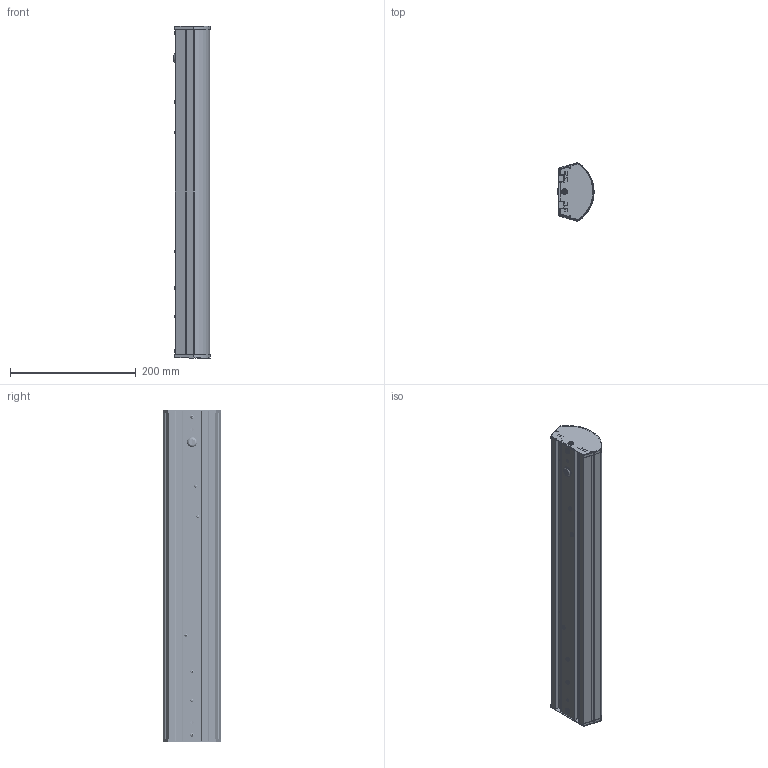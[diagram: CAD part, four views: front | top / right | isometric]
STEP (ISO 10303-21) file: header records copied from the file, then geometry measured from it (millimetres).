
FILE_DESCRIPTION (( 'STEP AP203' ), '1' );
FILE_NAME ('ALDO 530 - A3432170.STEP', '2026-01-20T08:05:43', ( '' ), ( '' ), 'SwSTEP 2.0', 'SolidWorks 2025', '' );
FILE_SCHEMA (( 'CONFIG_CONTROL_DESIGN' ));
Length unit declared in the file: millimetre
Products named in the file (14): ____________M3x7.2; ________________M3x8; __________D10; ________________M4x8; plain washers--product grade c gb_GB_FASTENER_WASHER_SMWC 4; ________ 525x82x17; hex thin nuts-grades ab-chamfered gb_GB_FASTENER_NUT_STNAB M3-S; ______ 93x56x5x1.0; ______________ 525x91x41x1.5; ________________M4x6; ______________M4x12; plain washers--product grade c gb_GB_FASTENER_WASHER_SMWC 3; ____________ 56x12x20x1.2; ALDO 530 - A3432170
Assembly tree (53 placements, depth 2):
  ALDO 530 - A3432170
    ________ 525x82x17
    ______________ 525x91x41x1.5
    ____________ 56x12x20x1.2  x2
    ______ 93x56x5x1.0  x2
    ______________M4x12  x2
    plain washers--product grade c gb_GB_FASTENER_WASHER_SMWC 4  x2
    ________________M4x6  x2
    ________________M4x8  x4
    ________________M3x8  x13
    plain washers--product grade c gb_GB_FASTENER_WASHER_SMWC 3  x13
    hex thin nuts-grades ab-chamfered gb_GB_FASTENER_NUT_STNAB M3-S  x5
    __________D10
    ____________M3x7.2  x5
Bounding box: 57.53 x 93 x 527 mm (x, y, z)
Volume: 227481 mm3; surface area: 381816.2 mm2
Topology: 53 solids, 53 shells, 2260 faces, 5900 edges, 3685 vertices
Faces by surface type: plane 928, cylinder 892, cone 252, bspline 155, torus 33
Entity records: 34295 total; most frequent: CARTESIAN_POINT 17281, ORIENTED_EDGE 3176, DIRECTION 2845, EDGE_CURVE 1588, VERTEX_POINT 1006, AXIS2_PLACEMENT_3D 972, LINE 901, VECTOR 901
